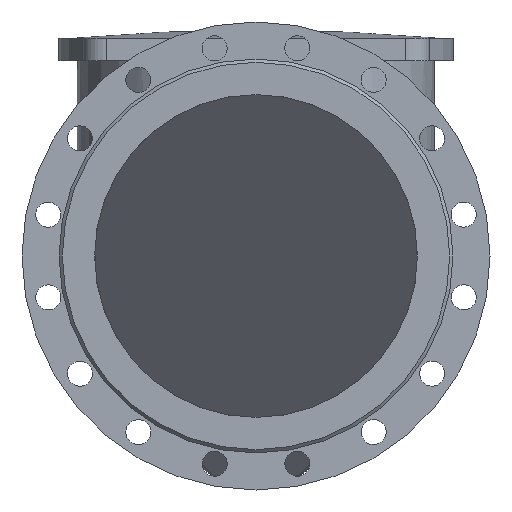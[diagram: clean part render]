
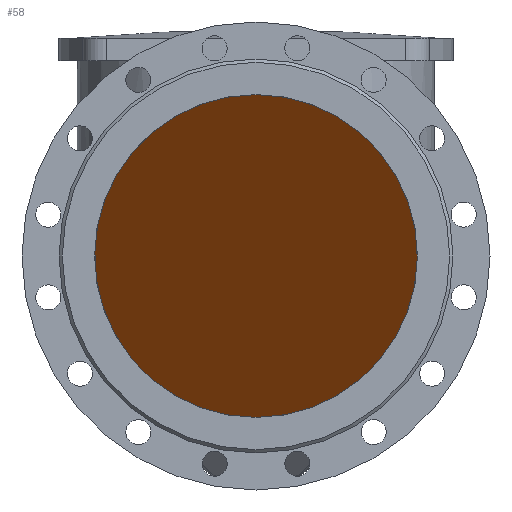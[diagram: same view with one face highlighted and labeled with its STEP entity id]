
A CAD part, front view. The second image highlights one B-rep face of the part: STEP entity #58.
In plain terms, the highlighted planar face has unit normal (0, -0.707, -0.707).
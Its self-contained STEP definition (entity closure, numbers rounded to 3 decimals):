
#58=ADVANCED_FACE('',(#806),#808,.T.);
#806=FACE_BOUND('',#807,.T.);
#807=EDGE_LOOP('',(#2809));
#808=PLANE('',#809);
#809=AXIS2_PLACEMENT_3D('',#810,#811,#812);
#810=CARTESIAN_POINT('',(-290.,-232.471,232.471));
#811=DIRECTION('',(0.,-0.707,-0.707));
#812=DIRECTION('',(0.,0.707,-0.707));
#2809=ORIENTED_EDGE('',*,*,#3142,.T.);
#3142=EDGE_CURVE('',#3305,#3305,#3306,.F.);
#3305=VERTEX_POINT('',#3596);
#3306=(BOUNDED_CURVE()B_SPLINE_CURVE(3,
(#3597,#3598,#3599,#3600,#3601,#3602,#3603),
.UNSPECIFIED.,.T.,.F.)B_SPLINE_CURVE_WITH_KNOTS((4,3,4),
(0.,0.5,1.),
.UNSPECIFIED.)CURVE()GEOMETRIC_REPRESENTATION_ITEM()RATIONAL_B_SPLINE_CURVE((1.,
0.333,0.333,1.,0.333,0.333,1.))
REPRESENTATION_ITEM(''));
#3596=CARTESIAN_POINT('',(0.,-200.,200.));
#3597=CARTESIAN_POINT('',(0.,-200.,200.));
#3598=CARTESIAN_POINT('',(400.,-200.,200.));
#3599=CARTESIAN_POINT('',(400.,200.,-200.));
#3600=CARTESIAN_POINT('',(0.,200.,-200.));
#3601=CARTESIAN_POINT('',(-400.,200.,-200.));
#3602=CARTESIAN_POINT('',(-400.,-200.,200.));
#3603=CARTESIAN_POINT('',(0.,-200.,200.));
